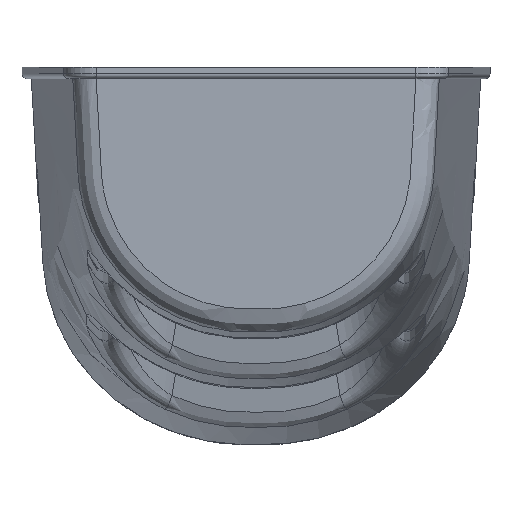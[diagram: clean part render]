
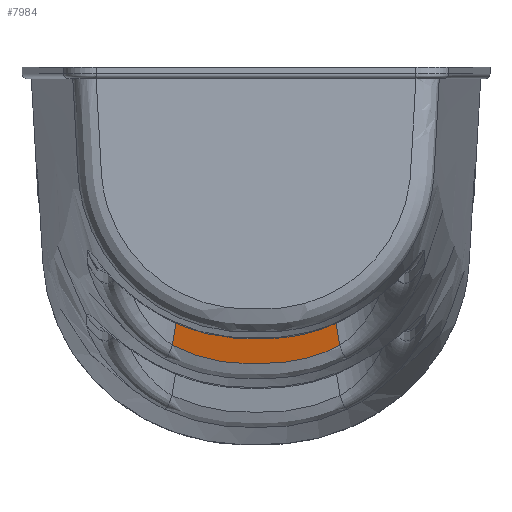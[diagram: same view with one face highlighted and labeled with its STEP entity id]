
A CAD part, front view. The second image highlights one B-rep face of the part: STEP entity #7984.
In plain terms, the highlighted planar face has unit normal (0, -0.985, -0.174).
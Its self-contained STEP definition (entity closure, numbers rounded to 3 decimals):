
#420=PLANE('',#8482);
#787=FACE_OUTER_BOUND('',#1300,.T.);
#1300=EDGE_LOOP('',(#6440,#6441,#6442,#6443));
#2095=B_SPLINE_CURVE_WITH_KNOTS('',3,(#159850,#159851,#159852,#159853,#159854,
#159855,#159856,#159857,#159858,#159859,#159860,#159861,#159862,#159863,
#159864,#159865,#159866,#159867,#159868,#159869,#159870,#159871,#159872,
#159873,#159874,#159875,#159876,#159877,#159878,#159879,#159880,#159881,
#159882,#159883,#159884,#159885,#159886,#159887,#159888,#159889,#159890,
#159891,#159892,#159893,#159894,#159895,#159896,#159897,#159898,#159899,
#159900,#159901,#159902,#159903,#159904,#159905,#159906,#159907,#159908,
#159909,#159910,#159911,#159912,#159913,#159914,#159915,#159916,#159917,
#159918,#159919,#159920,#159921,#159922,#159923,#159924,#159925,#159926,
#159927,#159928,#159929,#159930,#159931,#159932,#159933,#159934),
 .UNSPECIFIED.,.F.,.F.,(4,3,3,3,3,3,3,3,3,3,3,3,3,3,3,3,3,3,3,3,3,3,3,3,
3,3,3,3,4),(0.,0.117,0.125,0.242,0.248,
0.25,0.371,0.375,0.436,
0.437,0.437,0.437,0.437,
0.499,0.5,0.561,0.562,
0.562,0.562,0.562,0.562,
0.562,0.621,0.625,0.748,
0.75,0.859,0.875,1.),.UNSPECIFIED.);
#2463=LINE('',#168976,#2784);
#2475=LINE('',#170689,#2796);
#2478=LINE('',#170693,#2799);
#2784=VECTOR('',#9509,10.);
#2796=VECTOR('',#9529,1000.);
#2799=VECTOR('',#9534,1000.);
#3446=VERTEX_POINT('',#159840);
#3447=VERTEX_POINT('',#159849);
#3474=VERTEX_POINT('',#168372);
#3479=VERTEX_POINT('',#168967);
#4456=EDGE_CURVE('',#3447,#3446,#2095,.T.);
#4509=EDGE_CURVE('',#3474,#3479,#2463,.T.);
#4530=EDGE_CURVE('',#3446,#3474,#2475,.T.);
#4533=EDGE_CURVE('',#3479,#3447,#2478,.T.);
#6440=ORIENTED_EDGE('',*,*,#4533,.T.);
#6441=ORIENTED_EDGE('',*,*,#4456,.T.);
#6442=ORIENTED_EDGE('',*,*,#4530,.T.);
#6443=ORIENTED_EDGE('',*,*,#4509,.T.);
#7984=ADVANCED_FACE('',(#787),#420,.T.);
#8482=AXIS2_PLACEMENT_3D('',#170704,#9553,#9554);
#9509=DIRECTION('',(-1.,0.,0.));
#9529=DIRECTION('',(-0.163,-0.171,0.972));
#9534=DIRECTION('',(-0.163,0.171,-0.972));
#9553=DIRECTION('center_axis',(0.,-0.985,-0.174));
#9554=DIRECTION('ref_axis',(0.,0.174,-0.985));
#159840=CARTESIAN_POINT('',(89.544,404.381,-284.837));
#159849=CARTESIAN_POINT('',(-89.544,404.381,-284.837));
#159850=CARTESIAN_POINT('Ctrl Pts',(-89.544,404.381,
-284.837));
#159851=CARTESIAN_POINT('Ctrl Pts',(-83.063,404.98,
-288.233));
#159852=CARTESIAN_POINT('Ctrl Pts',(-76.4,405.503,
-291.201));
#159853=CARTESIAN_POINT('Ctrl Pts',(-69.554,405.951,
-293.74));
#159854=CARTESIAN_POINT('Ctrl Pts',(-69.097,405.981,
-293.91));
#159855=CARTESIAN_POINT('Ctrl Pts',(-68.642,406.01,
-294.076));
#159856=CARTESIAN_POINT('Ctrl Pts',(-68.182,406.039,
-294.242));
#159857=CARTESIAN_POINT('Ctrl Pts',(-61.29,406.479,
-296.733));
#159858=CARTESIAN_POINT('Ctrl Pts',(-54.271,406.838,
-298.772));
#159859=CARTESIAN_POINT('Ctrl Pts',(-47.124,407.118,
-300.36));
#159860=CARTESIAN_POINT('Ctrl Pts',(-46.767,407.132,
-300.439));
#159861=CARTESIAN_POINT('Ctrl Pts',(-46.409,407.146,-300.518));
#159862=CARTESIAN_POINT('Ctrl Pts',(-46.051,407.16,-300.595));
#159863=CARTESIAN_POINT('Ctrl Pts',(-45.932,407.164,-300.621));
#159864=CARTESIAN_POINT('Ctrl Pts',(-45.811,407.169,
-300.647));
#159865=CARTESIAN_POINT('Ctrl Pts',(-45.693,407.173,
-300.672));
#159866=CARTESIAN_POINT('Ctrl Pts',(-38.382,407.448,
-302.231));
#159867=CARTESIAN_POINT('Ctrl Pts',(-30.994,407.638,
-303.307));
#159868=CARTESIAN_POINT('Ctrl Pts',(-23.53,407.742,
-303.899));
#159869=CARTESIAN_POINT('Ctrl Pts',(-23.289,407.746,
-303.918));
#159870=CARTESIAN_POINT('Ctrl Pts',(-23.046,407.749,
-303.937));
#159871=CARTESIAN_POINT('Ctrl Pts',(-22.807,407.752,
-303.955));
#159872=CARTESIAN_POINT('Ctrl Pts',(-19.097,407.801,
-304.233));
#159873=CARTESIAN_POINT('Ctrl Pts',(-15.385,407.829,
-304.391));
#159874=CARTESIAN_POINT('Ctrl Pts',(-11.669,407.835,
-304.427));
#159875=CARTESIAN_POINT('Ctrl Pts',(-11.61,407.835,
-304.428));
#159876=CARTESIAN_POINT('Ctrl Pts',(-11.55,407.836,
-304.428));
#159877=CARTESIAN_POINT('Ctrl Pts',(-11.49,407.836,
-304.429));
#159878=CARTESIAN_POINT('Ctrl Pts',(-11.46,407.836,
-304.429));
#159879=CARTESIAN_POINT('Ctrl Pts',(-11.43,407.836,
-304.429));
#159880=CARTESIAN_POINT('Ctrl Pts',(-11.4,407.836,-304.43));
#159881=CARTESIAN_POINT('Ctrl Pts',(-11.372,407.836,
-304.43));
#159882=CARTESIAN_POINT('Ctrl Pts',(-11.344,407.836,-304.43));
#159883=CARTESIAN_POINT('Ctrl Pts',(-11.316,407.836,-304.43));
#159884=CARTESIAN_POINT('Ctrl Pts',(-11.314,407.836,
-304.43));
#159885=CARTESIAN_POINT('Ctrl Pts',(-11.31,407.836,
-304.43));
#159886=CARTESIAN_POINT('Ctrl Pts',(-11.31,407.836,
-304.43));
#159887=CARTESIAN_POINT('Ctrl Pts',(-10.879,407.836,-304.434));
#159888=CARTESIAN_POINT('Ctrl Pts',(-7.152,407.837,
-304.435));
#159889=CARTESIAN_POINT('Ctrl Pts',(-0.128,407.837,
-304.435));
#159890=CARTESIAN_POINT('Ctrl Pts',(-0.016,407.837,
-304.435));
#159891=CARTESIAN_POINT('Ctrl Pts',(0.098,407.837,
-304.435));
#159892=CARTESIAN_POINT('Ctrl Pts',(0.209,407.837,
-304.435));
#159893=CARTESIAN_POINT('Ctrl Pts',(7.088,407.837,-304.435));
#159894=CARTESIAN_POINT('Ctrl Pts',(10.907,407.836,-304.433));
#159895=CARTESIAN_POINT('Ctrl Pts',(11.665,407.835,-304.427));
#159896=CARTESIAN_POINT('Ctrl Pts',(11.677,407.835,-304.427));
#159897=CARTESIAN_POINT('Ctrl Pts',(11.688,407.835,-304.427));
#159898=CARTESIAN_POINT('Ctrl Pts',(11.699,407.835,-304.427));
#159899=CARTESIAN_POINT('Ctrl Pts',(11.704,407.835,-304.427));
#159900=CARTESIAN_POINT('Ctrl Pts',(11.71,407.835,-304.427));
#159901=CARTESIAN_POINT('Ctrl Pts',(11.714,407.835,-304.427));
#159902=CARTESIAN_POINT('Ctrl Pts',(11.718,407.835,-304.427));
#159903=CARTESIAN_POINT('Ctrl Pts',(11.722,407.835,-304.427));
#159904=CARTESIAN_POINT('Ctrl Pts',(11.725,407.835,-304.427));
#159905=CARTESIAN_POINT('Ctrl Pts',(11.726,407.835,-304.427));
#159906=CARTESIAN_POINT('Ctrl Pts',(11.727,407.835,-304.427));
#159907=CARTESIAN_POINT('Ctrl Pts',(11.728,407.835,-304.427));
#159908=CARTESIAN_POINT('Ctrl Pts',(11.728,407.835,-304.427));
#159909=CARTESIAN_POINT('Ctrl Pts',(11.728,407.835,-304.427));
#159910=CARTESIAN_POINT('Ctrl Pts',(11.728,407.835,-304.427));
#159911=CARTESIAN_POINT('Ctrl Pts',(11.728,407.835,-304.427));
#159912=CARTESIAN_POINT('Ctrl Pts',(11.728,407.835,-304.427));
#159913=CARTESIAN_POINT('Ctrl Pts',(11.729,407.835,-304.427));
#159914=CARTESIAN_POINT('Ctrl Pts',(15.336,407.829,-304.39));
#159915=CARTESIAN_POINT('Ctrl Pts',(18.943,407.802,-304.239));
#159916=CARTESIAN_POINT('Ctrl Pts',(22.55,407.755,-303.974));
#159917=CARTESIAN_POINT('Ctrl Pts',(22.79,407.752,-303.956));
#159918=CARTESIAN_POINT('Ctrl Pts',(23.029,407.749,-303.938));
#159919=CARTESIAN_POINT('Ctrl Pts',(23.271,407.746,-303.919));
#159920=CARTESIAN_POINT('Ctrl Pts',(30.9,407.641,-303.326));
#159921=CARTESIAN_POINT('Ctrl Pts',(38.449,407.447,-302.227));
#159922=CARTESIAN_POINT('Ctrl Pts',(45.919,407.165,-300.623));
#159923=CARTESIAN_POINT('Ctrl Pts',(46.037,407.16,-300.598));
#159924=CARTESIAN_POINT('Ctrl Pts',(46.157,407.156,-300.572));
#159925=CARTESIAN_POINT('Ctrl Pts',(46.274,407.151,-300.547));
#159926=CARTESIAN_POINT('Ctrl Pts',(52.847,406.9,-299.121));
#159927=CARTESIAN_POINT('Ctrl Pts',(59.314,406.581,-297.314));
#159928=CARTESIAN_POINT('Ctrl Pts',(65.675,406.195,-295.127));
#159929=CARTESIAN_POINT('Ctrl Pts',(66.583,406.14,-294.814));
#159930=CARTESIAN_POINT('Ctrl Pts',(67.488,406.084,-294.494));
#159931=CARTESIAN_POINT('Ctrl Pts',(68.394,406.026,-294.166));
#159932=CARTESIAN_POINT('Ctrl Pts',(75.645,405.562,-291.536));
#159933=CARTESIAN_POINT('Ctrl Pts',(82.695,405.014,-288.426));
#159934=CARTESIAN_POINT('Ctrl Pts',(89.544,404.381,-284.837));
#168372=CARTESIAN_POINT('',(68.542,382.371,-160.011));
#168967=CARTESIAN_POINT('',(-68.542,382.371,-160.011));
#168976=CARTESIAN_POINT('',(68.542,382.371,-160.011));
#170689=CARTESIAN_POINT('',(67.428,381.203,-153.39));
#170693=CARTESIAN_POINT('',(-86.345,401.028,-265.821));
#170704=CARTESIAN_POINT('Origin',(-290534.361,380.278,-148.142));
